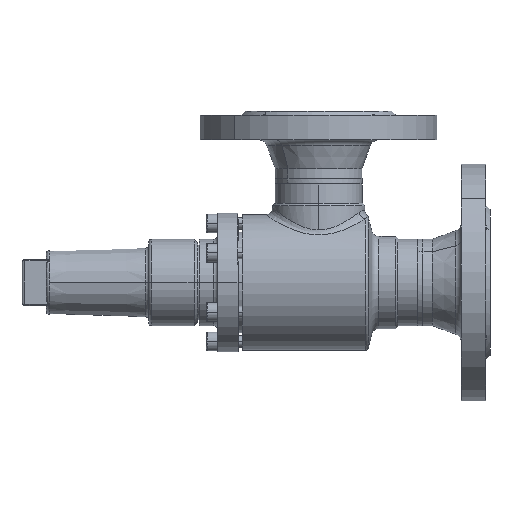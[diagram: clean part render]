
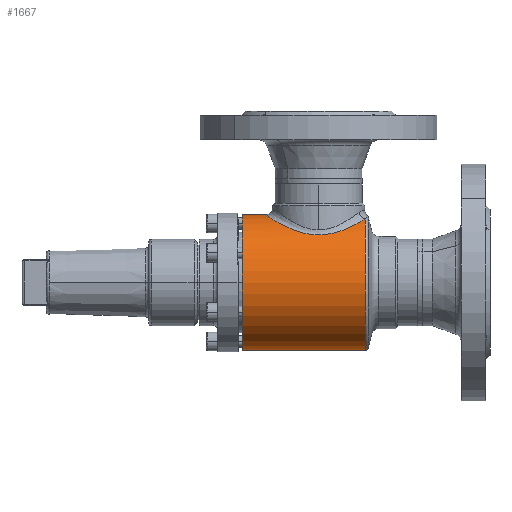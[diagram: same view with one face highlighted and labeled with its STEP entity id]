
A CAD part, left-side view. The second image highlights one B-rep face of the part: STEP entity #1667.
In plain terms, the highlighted cylindrical face has radius 47 mm (diameter 94 mm), a partial arc.
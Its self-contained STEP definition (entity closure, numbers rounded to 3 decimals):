
#1088 = FACE_OUTER_BOUND ( 'NONE', #1430, .T. ) ;
#1089 = CYLINDRICAL_SURFACE ( 'NONE', #1092, 47. ) ;
#1092 = AXIS2_PLACEMENT_3D ( 'NONE', #1093, #1094, #1095 ) ;
#1093 = CARTESIAN_POINT ( 'NONE',  ( 0., -91., 0. ) ) ;
#1094 = DIRECTION ( 'NONE',  ( 0., 1., 0. ) ) ;
#1095 = DIRECTION ( 'NONE',  ( 0., 0., 1. ) ) ;
#1267 = CARTESIAN_POINT ( 'NONE',  ( 0., -16., 47. ) ) ;
#1430 = EDGE_LOOP ( 'NONE', ( #10230, #9719, #8638, #7764, #7252 ) ) ;
#1433 = LINE ( 'NONE', #1434, #1435 ) ;
#1434 = CARTESIAN_POINT ( 'NONE',  ( 0., -91., 47. ) ) ;
#1435 = VECTOR ( 'NONE', #1436, 1000. ) ;
#1436 = DIRECTION ( 'NONE',  ( 0., 1., 0. ) ) ;
#1667 = ADVANCED_FACE ( 'NONE', ( #1088 ), #1089, .T. ) ;
#1885 = VERTEX_POINT ( 'NONE', #1267 ) ;
#2110 = EDGE_CURVE ( 'NONE', #1885, #2982, #1433, .T. ) ;
#2982 = VERTEX_POINT ( 'NONE', #4129 ) ;
#4078 = VERTEX_POINT ( 'NONE', #5477 ) ;
#4129 = CARTESIAN_POINT ( 'NONE',  ( 0., 0., 47. ) ) ;
#4299 = EDGE_CURVE ( 'NONE', #9003, #4078, #6012, .T. ) ;
#5477 = CARTESIAN_POINT ( 'NONE',  ( 0., 0., -47. ) ) ;
#6012 = LINE ( 'NONE', #6013, #6014 ) ;
#6013 = CARTESIAN_POINT ( 'NONE',  ( 0., -91., -47. ) ) ;
#6014 = VECTOR ( 'NONE', #6015, 1000. ) ;
#6015 = DIRECTION ( 'NONE',  ( 0., 1., 0. ) ) ;
#6066 = CARTESIAN_POINT ( 'NONE',  ( 0., -85.446, -47. ) ) ;
#6224 = CARTESIAN_POINT ( 'NONE',  ( -16.073, -85.446, 44.166 ) ) ;
#6582 = CIRCLE ( 'NONE', #6583, 47. ) ;
#6583 = AXIS2_PLACEMENT_3D ( 'NONE', #6584, #6585, #6586 ) ;
#6584 = CARTESIAN_POINT ( 'NONE',  ( 0., -85.446, 0. ) ) ;
#6585 = DIRECTION ( 'NONE',  ( 0., 1., 0. ) ) ;
#6586 = DIRECTION ( 'NONE',  ( 0., 0., -1. ) ) ;
#6883 = EDGE_CURVE ( 'NONE', #4078, #2982, #8431, .T. ) ;
#7252 = ORIENTED_EDGE ( 'NONE', *, *, #6883, .F. ) ;
#7764 = ORIENTED_EDGE ( 'NONE', *, *, #2110, .T. ) ;
#8274 = EDGE_CURVE ( 'NONE', #9144, #1885, #9699, .T. ) ;
#8431 = CIRCLE ( 'NONE', #8432, 47. ) ;
#8432 = AXIS2_PLACEMENT_3D ( 'NONE', #8433, #8434, #8435 ) ;
#8433 = CARTESIAN_POINT ( 'NONE',  ( 0., 0., 0. ) ) ;
#8434 = DIRECTION ( 'NONE',  ( 0., 1., 0. ) ) ;
#8435 = DIRECTION ( 'NONE',  ( 0., 0., 1. ) ) ;
#8638 = ORIENTED_EDGE ( 'NONE', *, *, #8274, .T. ) ;
#9003 = VERTEX_POINT ( 'NONE', #6066 ) ;
#9144 = VERTEX_POINT ( 'NONE', #6224 ) ;
#9363 = EDGE_CURVE ( 'NONE', #9003, #9144, #6582, .T. ) ;
#9699 = B_SPLINE_CURVE_WITH_KNOTS ( 'NONE', 3,
 ( #9702, #9703, #9704, #9705, #9706, #9707, #9708, #9709, #9710, #9711, #9712, #9713, #9714, #9715, #9716, #9717, #9721, #9722, #9723, #9724, #9725, #9726, #9727, #9728, #9729, #9730, #9731, #9732, #9733, #9734, #9735, #9736, #9739, #9740, #9741, #9742, #9743, #9744, #9745, #9746, #9747, #9748, #9749, #9750, #9751, #9752, #9753, #9754, #9755, #9756, #9757, #9758, #9759, #9760, #9761, #9762, #9763, #9764, #9765, #9766, #9767, #9768 ),
 .UNSPECIFIED., .F., .F.,
 ( 4, 2, 2, 2, 2, 2, 2, 2, 2, 2, 2, 2, 2, 2, 2, 2, 2, 2, 2, 2, 2, 2, 2, 2, 2, 2, 2, 2, 2, 2, 4 ),
 ( 0.017, 0.023, 0.026, 0.029, 0.035, 0.039, 0.04, 0.042, 0.048, 0.051, 0.052, 0.054, 0.06, 0.063, 0.066, 0.069, 0.072, 0.078, 0.081, 0.083, 0.084, 0.09, 0.093, 0.095, 0.096, 0.103, 0.106, 0.107, 0.109, 0.112, 0.115 ),
 .UNSPECIFIED. ) ;
#9702 = CARTESIAN_POINT ( 'NONE',  ( -16.073, -85.446, 44.166 ) ) ;
#9703 = CARTESIAN_POINT ( 'NONE',  ( -17.749, -84.43, 43.556 ) ) ;
#9704 = CARTESIAN_POINT ( 'NONE',  ( -19.293, -83.29, 42.887 ) ) ;
#9705 = CARTESIAN_POINT ( 'NONE',  ( -21.444, -81.41, 41.831 ) ) ;
#9706 = CARTESIAN_POINT ( 'NONE',  ( -22.133, -80.755, 41.469 ) ) ;
#9707 = CARTESIAN_POINT ( 'NONE',  ( -23.459, -79.389, 40.734 ) ) ;
#9708 = CARTESIAN_POINT ( 'NONE',  ( -24.096, -78.676, 40.359 ) ) ;
#9709 = CARTESIAN_POINT ( 'NONE',  ( -25.907, -76.48, 39.24 ) ) ;
#9710 = CARTESIAN_POINT ( 'NONE',  ( -26.989, -74.936, 38.497 ) ) ;
#9711 = CARTESIAN_POINT ( 'NONE',  ( -28.44, -72.491, 37.424 ) ) ;
#9712 = CARTESIAN_POINT ( 'NONE',  ( -28.894, -71.655, 37.073 ) ) ;
#9713 = CARTESIAN_POINT ( 'NONE',  ( -29.533, -70.366, 36.563 ) ) ;
#9714 = CARTESIAN_POINT ( 'NONE',  ( -29.739, -69.93, 36.396 ) ) ;
#9715 = CARTESIAN_POINT ( 'NONE',  ( -30.137, -69.047, 36.067 ) ) ;
#9716 = CARTESIAN_POINT ( 'NONE',  ( -30.328, -68.599, 35.906 ) ) ;
#9717 = CARTESIAN_POINT ( 'NONE',  ( -31.243, -66.344, 35.126 ) ) ;
#9719 = ORIENTED_EDGE ( 'NONE', *, *, #9363, .T. ) ;
#9721 = CARTESIAN_POINT ( 'NONE',  ( -31.842, -64.482, 34.576 ) ) ;
#9722 = CARTESIAN_POINT ( 'NONE',  ( -32.541, -61.591, 33.914 ) ) ;
#9723 = CARTESIAN_POINT ( 'NONE',  ( -32.74, -60.61, 33.721 ) ) ;
#9724 = CARTESIAN_POINT ( 'NONE',  ( -32.986, -59.111, 33.48 ) ) ;
#9725 = CARTESIAN_POINT ( 'NONE',  ( -33.059, -58.608, 33.408 ) ) ;
#9726 = CARTESIAN_POINT ( 'NONE',  ( -33.186, -57.603, 33.282 ) ) ;
#9727 = CARTESIAN_POINT ( 'NONE',  ( -33.239, -57.1, 33.229 ) ) ;
#9728 = CARTESIAN_POINT ( 'NONE',  ( -33.462, -54.583, 33.006 ) ) ;
#9729 = CARTESIAN_POINT ( 'NONE',  ( -33.49, -52.562, 32.976 ) ) ;
#9730 = CARTESIAN_POINT ( 'NONE',  ( -33.307, -49.52, 33.161 ) ) ;
#9731 = CARTESIAN_POINT ( 'NONE',  ( -33.207, -48.498, 33.262 ) ) ;
#9732 = CARTESIAN_POINT ( 'NONE',  ( -32.933, -46.49, 33.532 ) ) ;
#9733 = CARTESIAN_POINT ( 'NONE',  ( -32.761, -45.501, 33.702 ) ) ;
#9734 = CARTESIAN_POINT ( 'NONE',  ( -32.346, -43.55, 34.1 ) ) ;
#9735 = CARTESIAN_POINT ( 'NONE',  ( -32.103, -42.587, 34.33 ) ) ;
#9736 = CARTESIAN_POINT ( 'NONE',  ( -31.549, -40.688, 34.839 ) ) ;
#9739 = CARTESIAN_POINT ( 'NONE',  ( -31.237, -39.749, 35.121 ) ) ;
#9740 = CARTESIAN_POINT ( 'NONE',  ( -30.211, -37.009, 36.016 ) ) ;
#9741 = CARTESIAN_POINT ( 'NONE',  ( -29.406, -35.272, 36.683 ) ) ;
#9742 = CARTESIAN_POINT ( 'NONE',  ( -28.021, -32.781, 37.738 ) ) ;
#9743 = CARTESIAN_POINT ( 'NONE',  ( -27.529, -31.97, 38.099 ) ) ;
#9744 = CARTESIAN_POINT ( 'NONE',  ( -26.744, -30.781, 38.65 ) ) ;
#9745 = CARTESIAN_POINT ( 'NONE',  ( -26.475, -30.389, 38.835 ) ) ;
#9746 = CARTESIAN_POINT ( 'NONE',  ( -25.92, -29.615, 39.208 ) ) ;
#9747 = CARTESIAN_POINT ( 'NONE',  ( -25.634, -29.233, 39.396 ) ) ;
#9748 = CARTESIAN_POINT ( 'NONE',  ( -24.175, -27.357, 40.33 ) ) ;
#9749 = CARTESIAN_POINT ( 'NONE',  ( -22.902, -25.964, 41.072 ) ) ;
#9750 = CARTESIAN_POINT ( 'NONE',  ( -20.822, -24.029, 42.143 ) ) ;
#9751 = CARTESIAN_POINT ( 'NONE',  ( -20.099, -23.411, 42.494 ) ) ;
#9752 = CARTESIAN_POINT ( 'NONE',  ( -18.969, -22.523, 43.004 ) ) ;
#9753 = CARTESIAN_POINT ( 'NONE',  ( -18.584, -22.235, 43.172 ) ) ;
#9754 = CARTESIAN_POINT ( 'NONE',  ( -17.798, -21.671, 43.502 ) ) ;
#9755 = CARTESIAN_POINT ( 'NONE',  ( -17.396, -21.396, 43.664 ) ) ;
#9756 = CARTESIAN_POINT ( 'NONE',  ( -15.356, -20.064, 44.455 ) ) ;
#9757 = CARTESIAN_POINT ( 'NONE',  ( -13.635, -19.147, 45.018 ) ) ;
#9758 = CARTESIAN_POINT ( 'NONE',  ( -10.906, -18.006, 45.727 ) ) ;
#9759 = CARTESIAN_POINT ( 'NONE',  ( -9.972, -17.666, 45.94 ) ) ;
#9760 = CARTESIAN_POINT ( 'NONE',  ( -8.53, -17.219, 46.222 ) ) ;
#9761 = CARTESIAN_POINT ( 'NONE',  ( -8.041, -17.081, 46.31 ) ) ;
#9762 = CARTESIAN_POINT ( 'NONE',  ( -7.058, -16.829, 46.47 ) ) ;
#9763 = CARTESIAN_POINT ( 'NONE',  ( -6.563, -16.715, 46.542 ) ) ;
#9764 = CARTESIAN_POINT ( 'NONE',  ( -5.066, -16.41, 46.737 ) ) ;
#9765 = CARTESIAN_POINT ( 'NONE',  ( -4.049, -16.255, 46.836 ) ) ;
#9766 = CARTESIAN_POINT ( 'NONE',  ( -2.024, -16.051, 46.967 ) ) ;
#9767 = CARTESIAN_POINT ( 'NONE',  ( -1.011, -16., 47. ) ) ;
#9768 = CARTESIAN_POINT ( 'NONE',  ( 0., -16., 47. ) ) ;
#10230 = ORIENTED_EDGE ( 'NONE', *, *, #4299, .F. ) ;
